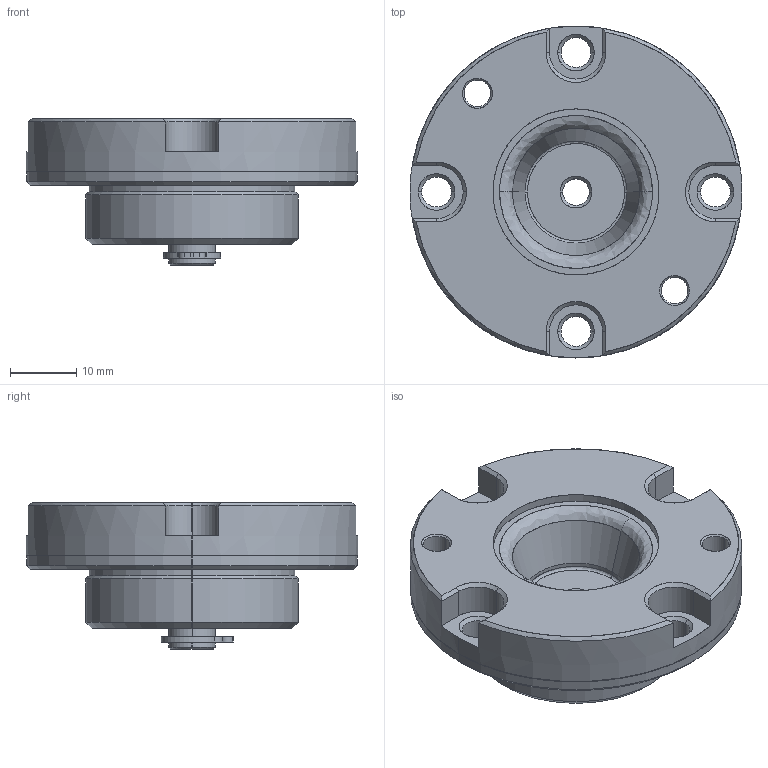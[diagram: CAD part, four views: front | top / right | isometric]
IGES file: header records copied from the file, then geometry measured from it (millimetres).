
Start section: SolidWorks IGES file using analytic representation for surfaces
Global section: file name: X:\11_SW2020-Inv2020\00_全2021-11新製品まで\c\CP725-25050\cp725-25050.IGS; native system: SolidWorks 2020; preprocessor: SolidWorks 2020; author: ImaoCorp; date: 211026.083847; units: millimetre
Bounding box: 50 x 50 x 22.1 mm (x, y, z)
Surface area: 9780.3 mm2 (no closed solid volume)
Topology: 0 solids, 0 shells, 166 faces, 2558 edges, 2556 vertices
Faces by surface type: revolution 108, bspline 58
